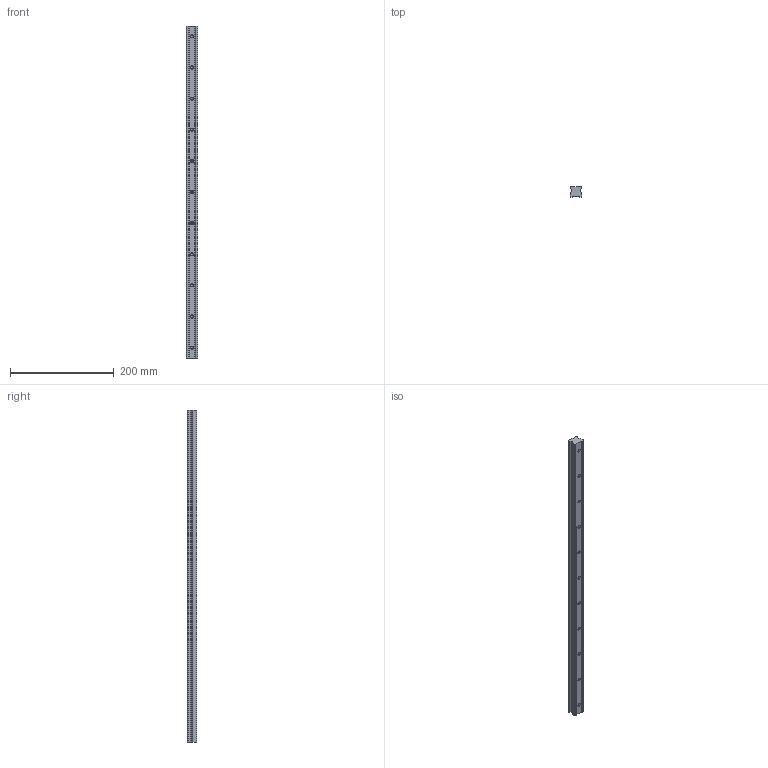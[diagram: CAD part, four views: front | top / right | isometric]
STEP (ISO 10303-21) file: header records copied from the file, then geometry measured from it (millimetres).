
FILE_DESCRIPTION (( 'STEP AP203' ), '1' );
FILE_NAME ('L1016.BRF25-0640.step', '2019-06-13T08:35:26', ( '' ), ( '' ), 'SwSTEP 2.0', 'SolidWorks 2017', '' );
FILE_SCHEMA (( 'CONFIG_CONTROL_DESIGN' ));
Length unit declared in the file: millimetre
Products named in the file (1): L1016.BRF25-0640
Bounding box: 23 x 19.2 x 640 mm (x, y, z)
Volume: 244248.2 mm3; surface area: 59576.5 mm2
Topology: 1 solids, 1 shells, 103 faces, 248 edges, 147 vertices
Faces by surface type: cylinder 48, plane 33, cone 22
Entity records: 2925 total; most frequent: DIRECTION 530, CARTESIAN_POINT 477, ORIENTED_EDGE 452, EDGE_CURVE 226, AXIS2_PLACEMENT_3D 200, VERTEX_POINT 147, LINE 130, VECTOR 130
